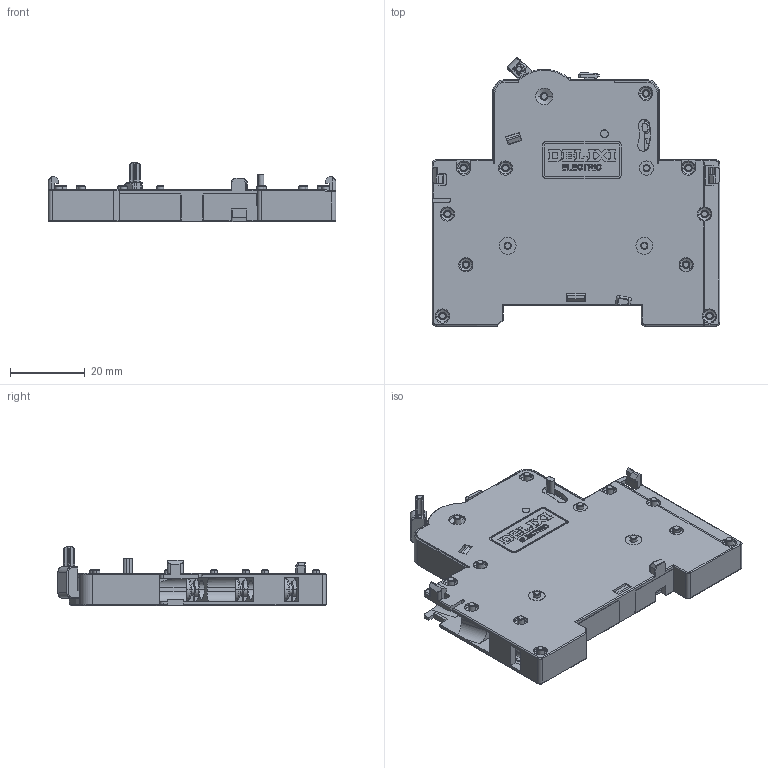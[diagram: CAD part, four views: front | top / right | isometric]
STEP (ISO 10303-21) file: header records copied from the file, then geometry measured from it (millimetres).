
FILE_DESCRIPTION((''),'2;1');
FILE_NAME('2297007400_SW0001','2023-11-07T',('dufeng.zhai'),(''),'PRO/ENGINEER BY PARAMETRIC TECHNOLOGY CORPORATION, 2015440','PRO/ENGINEER BY PARAMETRIC TECHNOLOGY CORPORATION, 2015440','');
FILE_SCHEMA(('CONFIG_CONTROL_DESIGN'));
Products named in the file (1): 2297007400_SW0001
Bounding box: 77 x 71.8 x 15.9 mm (x, y, z)
Volume: 28242.9 mm3; surface area: 22403.9 mm2
Topology: 1 solids, 1 shells, 2383 faces, 6582 edges, 4228 vertices
Faces by surface type: plane 1520, cylinder 490, cone 171, torus 103, bspline 54, extrusion 43, sphere 2
Entity records: 80342 total; most frequent: CARTESIAN_POINT 20120, ORIENTED_EDGE 13164, DIRECTION 11673, EDGE_CURVE 6582, VECTOR 4645, LINE 4602, VERTEX_POINT 4228, AXIS2_PLACEMENT_3D 3514
